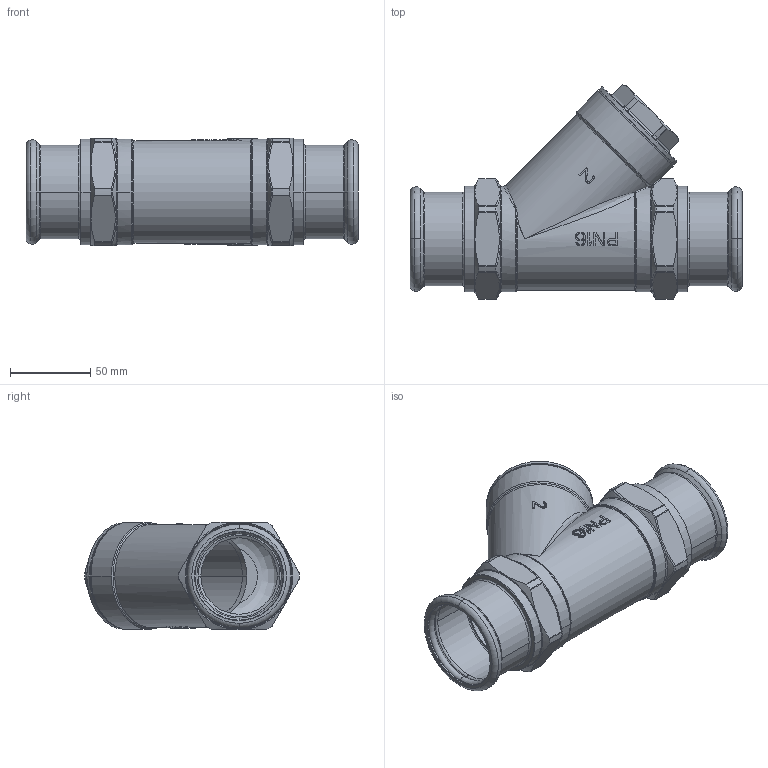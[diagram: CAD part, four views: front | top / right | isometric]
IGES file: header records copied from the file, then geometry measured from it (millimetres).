
Global section: file name: No Iges File Name specified; native system: AutoDesk Inventor R12.0; preprocessor: AutoDesk Inventor Iges Exporter R12.0; date: 20120208.152205; units: millimetre
Bounding box: 207 x 133.68 x 67 mm (x, y, z)
Volume: 208254.8 mm3; surface area: 142520 mm2
Topology: 1 solids, 2 shells, 602 faces, 1531 edges, 945 vertices
Faces by surface type: bspline 199, plane 123, revolution 94, cylinder 87, cone 47, torus 30, sphere 22
